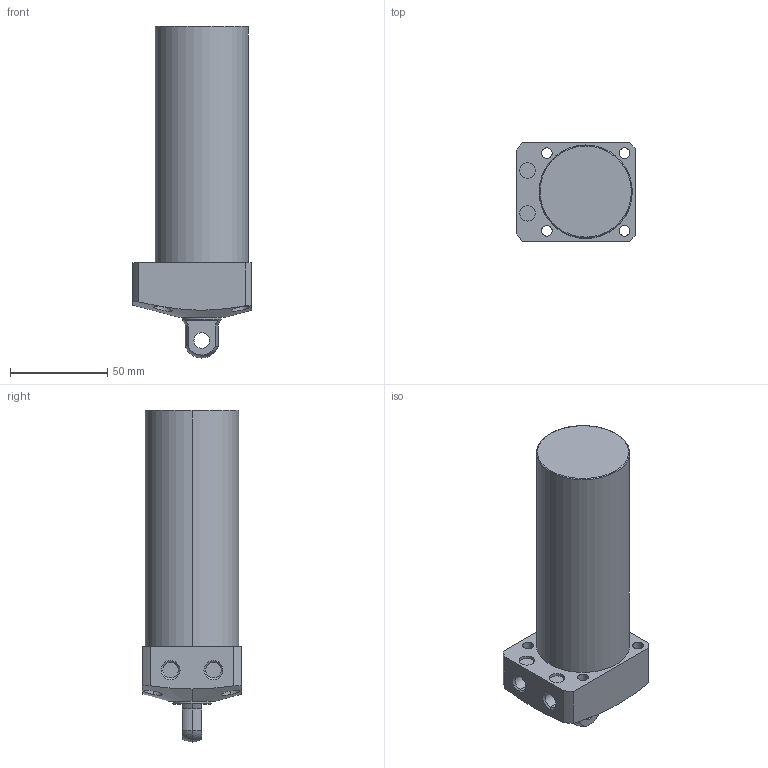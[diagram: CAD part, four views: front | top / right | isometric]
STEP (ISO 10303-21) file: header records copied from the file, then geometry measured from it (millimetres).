
FILE_DESCRIPTION (( 'STEP AP203' ), '1' );
FILE_NAME ('CLL048-CP-095.STEP', '2017-05-17T10:35:37', ( '' ), ( '' ), 'SwSTEP 2.0', 'SolidWorks 2015', '' );
FILE_SCHEMA (( 'CONFIG_CONTROL_DESIGN' ));
Length unit declared in the file: millimetre
Products named in the file (1): CLL048-CP-095
Bounding box: 61 x 51 x 171 mm (x, y, z)
Volume: 296103.9 mm3; surface area: 33216.6 mm2
Topology: 1 solids, 1 shells, 68 faces, 159 edges, 103 vertices
Faces by surface type: cylinder 35, plane 21, cone 8, sphere 2, torus 2
Entity records: 2390 total; most frequent: CARTESIAN_POINT 693, DIRECTION 357, ORIENTED_EDGE 318, EDGE_CURVE 159, AXIS2_PLACEMENT_3D 149, VERTEX_POINT 103, EDGE_LOOP 88, CIRCLE 80
